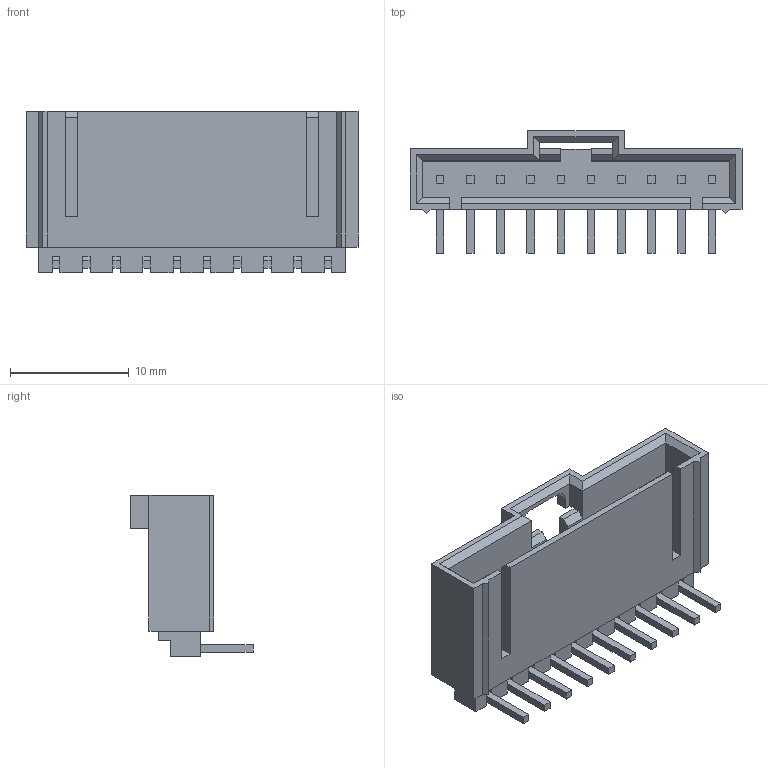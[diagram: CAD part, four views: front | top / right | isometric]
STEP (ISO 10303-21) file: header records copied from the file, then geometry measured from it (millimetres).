
FILE_DESCRIPTION( ( 'STEP AP214' ), '1' );
FILE_NAME( 'C:/Users/KMIROS~1/AppData/Local/Temp/psolqas1456212834.stp', '2019-07-16T12:56:21', ( '' ), ( '' ), ' ', 'PARTsolutions', ' ' );
FILE_SCHEMA( ( 'AUTOMOTIVE_DESIGN { 1 0 10303 214 1 1 1 1 }' ) );
Length unit declared in the file: metre
Products named in the file (1): 1
Bounding box: 27.94 x 10.29 x 13.59 mm (x, y, z)
Volume: 1070.9 mm3; surface area: 1989.4 mm2
Topology: 1 solids, 1 shells, 251 faces, 670 edges, 430 vertices
Faces by surface type: plane 229, cylinder 22
Entity records: 7647 total; most frequent: CARTESIAN_POINT 1352, ORIENTED_EDGE 1340, DIRECTION 1218, EDGE_CURVE 670, LINE 626, VECTOR 626, VERTEX_POINT 430, AXIS2_PLACEMENT_3D 296
